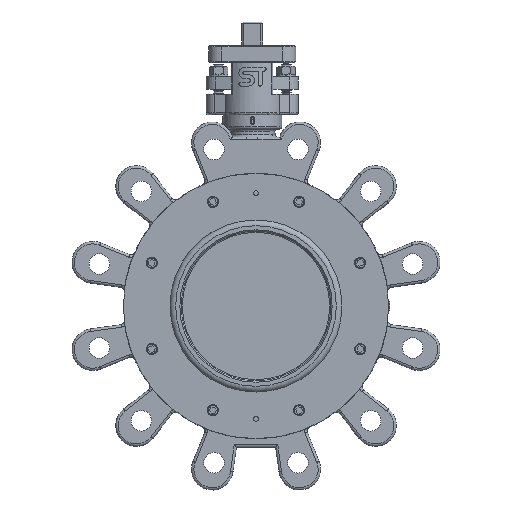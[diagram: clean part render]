
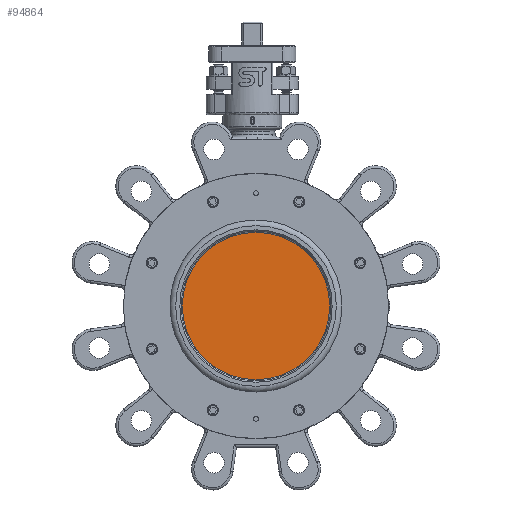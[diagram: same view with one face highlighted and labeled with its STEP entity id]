
A CAD part, front view. The second image highlights one B-rep face of the part: STEP entity #94864.
In plain terms, the highlighted planar face has unit normal (0, -1, 0).
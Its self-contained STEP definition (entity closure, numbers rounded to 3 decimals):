
#94864 = ADVANCED_FACE('',(#94865),#94878,.F.);
#94865 = FACE_BOUND('',#94866,.T.);
#94866 = EDGE_LOOP('',(#94867));
#94867 = ORIENTED_EDGE('',*,*,#94868,.F.);
#94868 = EDGE_CURVE('',#94869,#94869,#94871,.T.);
#94869 = VERTEX_POINT('',#94870);
#94870 = CARTESIAN_POINT('',(-36.323,30.052,202.687));
#94871 = SURFACE_CURVE('',#94872,(#94877,#94889),.PCURVE_S1.);
#94872 = CIRCLE('',#94873,2.364);
#94873 = AXIS2_PLACEMENT_3D('',#94874,#94875,#94876);
#94874 = CARTESIAN_POINT('',(-33.959,30.052,202.687));
#94875 = DIRECTION('',(0.,1.,0.));
#94876 = DIRECTION('',(-1.,0.,0.));
#94877 = PCURVE('',#94878,#94883);
#94878 = PLANE('',#94879);
#94879 = AXIS2_PLACEMENT_3D('',#94880,#94881,#94882);
#94880 = CARTESIAN_POINT('',(-33.959,30.052,202.687));
#94881 = DIRECTION('',(0.,1.,0.));
#94882 = DIRECTION('',(-1.,0.,0.));
#94883 = DEFINITIONAL_REPRESENTATION('',(#94884),#94888);
#94884 = CIRCLE('',#94885,2.364);
#94885 = AXIS2_PLACEMENT_2D('',#94886,#94887);
#94886 = CARTESIAN_POINT('',(0.,0.));
#94887 = DIRECTION('',(1.,0.));
#94888 = ( GEOMETRIC_REPRESENTATION_CONTEXT(2) 
PARAMETRIC_REPRESENTATION_CONTEXT() REPRESENTATION_CONTEXT('2D SPACE',''
  ) );
#94889 = PCURVE('',#94890,#94895);
#94890 = TOROIDAL_SURFACE('',#94891,2.364,0.039);
#94891 = AXIS2_PLACEMENT_3D('',#94892,#94893,#94894);
#94892 = CARTESIAN_POINT('',(-33.959,30.013,202.687));
#94893 = DIRECTION('',(0.,1.,0.));
#94894 = DIRECTION('',(-1.,0.,0.));
#94895 = DEFINITIONAL_REPRESENTATION('',(#94896),#94900);
#94896 = LINE('',#94897,#94898);
#94897 = CARTESIAN_POINT('',(0.,7.854));
#94898 = VECTOR('',#94899,1.);
#94899 = DIRECTION('',(1.,0.));
#94900 = ( GEOMETRIC_REPRESENTATION_CONTEXT(2) 
PARAMETRIC_REPRESENTATION_CONTEXT() REPRESENTATION_CONTEXT('2D SPACE',''
  ) );
